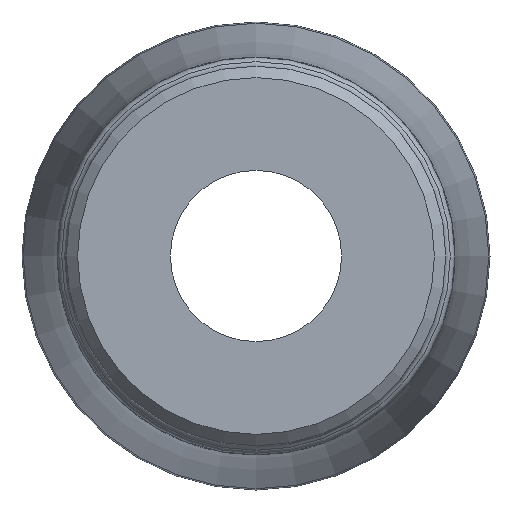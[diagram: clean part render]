
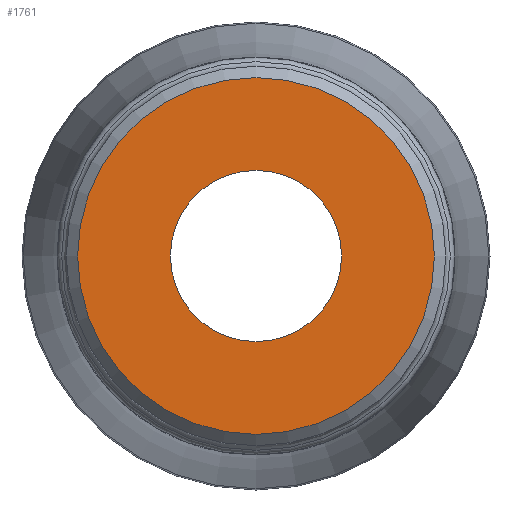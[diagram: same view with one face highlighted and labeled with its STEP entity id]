
A CAD part, left-side view. The second image highlights one B-rep face of the part: STEP entity #1761.
In plain terms, the highlighted planar face has unit normal (-1, 0, 0).
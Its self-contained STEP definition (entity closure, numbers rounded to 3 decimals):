
#198=FACE_BOUND('',#390,.T.);
#207=PLANE('',#1945);
#285=FACE_OUTER_BOUND('',#389,.T.);
#389=EDGE_LOOP('',(#1364));
#390=EDGE_LOOP('',(#1365,#1366));
#690=CIRCLE('',#1941,15.627);
#693=CIRCLE('',#1946,7.5);
#694=CIRCLE('',#1947,7.5);
#821=VERTEX_POINT('',#3014);
#824=VERTEX_POINT('',#3024);
#825=VERTEX_POINT('',#3025);
#1019=EDGE_CURVE('',#821,#821,#690,.T.);
#1023=EDGE_CURVE('',#824,#825,#693,.T.);
#1024=EDGE_CURVE('',#825,#824,#694,.T.);
#1364=ORIENTED_EDGE('',*,*,#1019,.F.);
#1365=ORIENTED_EDGE('',*,*,#1023,.T.);
#1366=ORIENTED_EDGE('',*,*,#1024,.T.);
#1761=ADVANCED_FACE('',(#285,#198),#207,.T.);
#1941=AXIS2_PLACEMENT_3D('',#3016,#2262,#2263);
#1945=AXIS2_PLACEMENT_3D('',#3023,#2271,#2272);
#1946=AXIS2_PLACEMENT_3D('',#3026,#2273,#2274);
#1947=AXIS2_PLACEMENT_3D('',#3027,#2275,#2276);
#2262=DIRECTION('center_axis',(1.,0.,0.));
#2263=DIRECTION('ref_axis',(0.,-1.,0.));
#2271=DIRECTION('center_axis',(-1.,0.,0.));
#2272=DIRECTION('ref_axis',(0.,0.,1.));
#2273=DIRECTION('center_axis',(1.,0.,0.));
#2274=DIRECTION('ref_axis',(0.,0.,-1.));
#2275=DIRECTION('center_axis',(1.,0.,0.));
#2276=DIRECTION('ref_axis',(0.,0.,-1.));
#3014=CARTESIAN_POINT('',(0.,15.627,0.));
#3016=CARTESIAN_POINT('Origin',(0.,0.,0.));
#3023=CARTESIAN_POINT('Origin',(0.,16.625,0.));
#3024=CARTESIAN_POINT('',(0.,7.5,0.));
#3025=CARTESIAN_POINT('',(0.,-7.5,0.));
#3026=CARTESIAN_POINT('Origin',(0.,0.,0.));
#3027=CARTESIAN_POINT('Origin',(0.,0.,0.));
